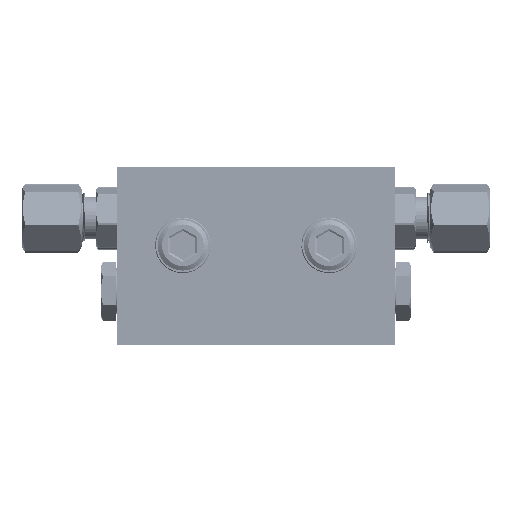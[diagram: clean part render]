
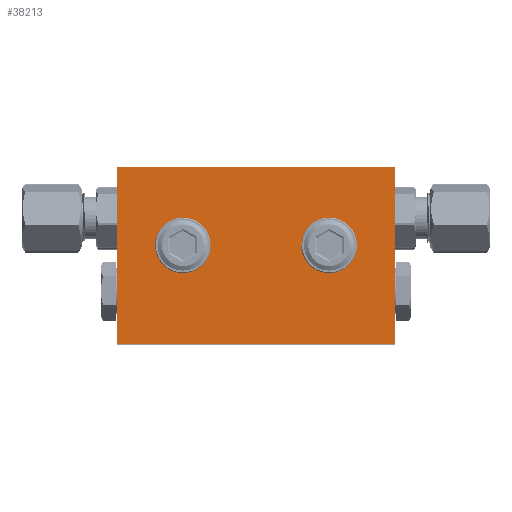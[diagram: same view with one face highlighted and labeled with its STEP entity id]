
A CAD part, top view. The second image highlights one B-rep face of the part: STEP entity #38213.
In plain terms, the highlighted planar face has unit normal (0, 0, 1) as drawn and (0, 0, -1) by its records, which use the part's own axes.
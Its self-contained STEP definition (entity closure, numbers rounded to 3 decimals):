
#2836 = CARTESIAN_POINT ( 'NONE',  ( 0., 0., -4.85 ) ) ;
#3604 = DIRECTION ( 'NONE',  ( 0., 0., -1. ) ) ;
#3949 = FACE_BOUND ( 'NONE', #14858, .T. ) ;
#4126 = AXIS2_PLACEMENT_3D ( 'NONE', #40798, #4318, #37273 ) ;
#4318 = DIRECTION ( 'NONE',  ( 0., 0., -1. ) ) ;
#4398 = VERTEX_POINT ( 'NONE', #11908 ) ;
#5764 = ORIENTED_EDGE ( 'NONE', *, *, #17531, .F. ) ;
#6883 = VECTOR ( 'NONE', #21630, 1000. ) ;
#7452 = LINE ( 'NONE', #35010, #6883 ) ;
#8281 = EDGE_CURVE ( 'NONE', #37750, #43767, #38170, .T. ) ;
#8921 = AXIS2_PLACEMENT_3D ( 'NONE', #30082, #3604, #36775 ) ;
#9232 = EDGE_CURVE ( 'NONE', #43767, #18129, #7452, .T. ) ;
#10547 = VERTEX_POINT ( 'NONE', #43866 ) ;
#11908 = CARTESIAN_POINT ( 'NONE',  ( 11.4, -15.5, -4.85 ) ) ;
#11995 = EDGE_LOOP ( 'NONE', ( #16555, #5764, #28119, #41221 ) ) ;
#12664 = CARTESIAN_POINT ( 'NONE',  ( -27.5, -35., -4.85 ) ) ;
#13491 = DIRECTION ( 'NONE',  ( 0., 0., 1. ) ) ;
#14858 = EDGE_LOOP ( 'NONE', ( #41589 ) ) ;
#16555 = ORIENTED_EDGE ( 'NONE', *, *, #8281, .F. ) ;
#16852 = CIRCLE ( 'NONE', #4126, 3.1 ) ;
#17386 = VECTOR ( 'NONE', #31973, 1000. ) ;
#17531 = EDGE_CURVE ( 'NONE', #10547, #37750, #24844, .T. ) ;
#18129 = VERTEX_POINT ( 'NONE', #42661 ) ;
#20600 = FACE_BOUND ( 'NONE', #31262, .T. ) ;
#21630 = DIRECTION ( 'NONE',  ( 0., 1., 0. ) ) ;
#24064 = CARTESIAN_POINT ( 'NONE',  ( 27.5, -35., -4.85 ) ) ;
#24524 = CIRCLE ( 'NONE', #8921, 3.1 ) ;
#24844 = LINE ( 'NONE', #32182, #17386 ) ;
#25940 = LINE ( 'NONE', #2836, #32770 ) ;
#26334 = EDGE_CURVE ( 'NONE', #4398, #4398, #24524, .T. ) ;
#27270 = DIRECTION ( 'NONE',  ( 1., 0., 0. ) ) ;
#28091 = CARTESIAN_POINT ( 'NONE',  ( 0., -35., -4.85 ) ) ;
#28119 = ORIENTED_EDGE ( 'NONE', *, *, #38287, .F. ) ;
#30082 = CARTESIAN_POINT ( 'NONE',  ( 14.5, -15.5, -4.85 ) ) ;
#30257 = ORIENTED_EDGE ( 'NONE', *, *, #26334, .F. ) ;
#30633 = CARTESIAN_POINT ( 'NONE',  ( 0., 0., -4.85 ) ) ;
#30857 = FACE_OUTER_BOUND ( 'NONE', #11995, .T. ) ;
#31262 = EDGE_LOOP ( 'NONE', ( #30257 ) ) ;
#31973 = DIRECTION ( 'NONE',  ( 0., -1., 0. ) ) ;
#32182 = CARTESIAN_POINT ( 'NONE',  ( -27.5, 0., -4.85 ) ) ;
#32770 = VECTOR ( 'NONE', #33275, 1000. ) ;
#33275 = DIRECTION ( 'NONE',  ( -1., 0., 0. ) ) ;
#33676 = EDGE_CURVE ( 'NONE', #40170, #40170, #16852, .T. ) ;
#34156 = AXIS2_PLACEMENT_3D ( 'NONE', #30633, #13491, #27270 ) ;
#34361 = DIRECTION ( 'NONE',  ( 1., 0., 0. ) ) ;
#35010 = CARTESIAN_POINT ( 'NONE',  ( 27.5, 0., -4.85 ) ) ;
#35031 = VECTOR ( 'NONE', #34361, 1000. ) ;
#36775 = DIRECTION ( 'NONE',  ( -1., 0., 0. ) ) ;
#37273 = DIRECTION ( 'NONE',  ( 1., 0., 0. ) ) ;
#37750 = VERTEX_POINT ( 'NONE', #12664 ) ;
#38170 = LINE ( 'NONE', #28091, #35031 ) ;
#38213 = ADVANCED_FACE ( 'NONE', ( #3949, #20600, #30857 ), #43947, .F. ) ;
#38287 = EDGE_CURVE ( 'NONE', #18129, #10547, #25940, .T. ) ;
#39744 = CARTESIAN_POINT ( 'NONE',  ( -11.4, -15.5, -4.85 ) ) ;
#40170 = VERTEX_POINT ( 'NONE', #39744 ) ;
#40798 = CARTESIAN_POINT ( 'NONE',  ( -14.5, -15.5, -4.85 ) ) ;
#41221 = ORIENTED_EDGE ( 'NONE', *, *, #9232, .F. ) ;
#41589 = ORIENTED_EDGE ( 'NONE', *, *, #33676, .F. ) ;
#42661 = CARTESIAN_POINT ( 'NONE',  ( 27.5, 0., -4.85 ) ) ;
#43767 = VERTEX_POINT ( 'NONE', #24064 ) ;
#43866 = CARTESIAN_POINT ( 'NONE',  ( -27.5, 0., -4.85 ) ) ;
#43947 = PLANE ( 'NONE',  #34156 ) ;
